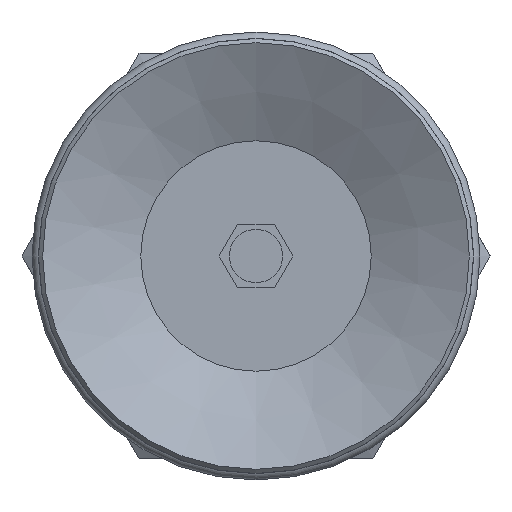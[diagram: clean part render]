
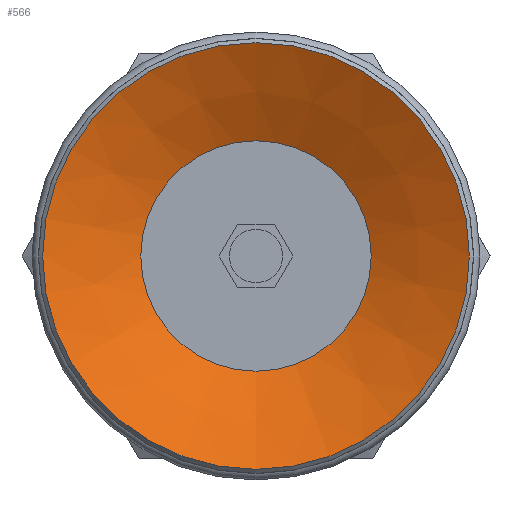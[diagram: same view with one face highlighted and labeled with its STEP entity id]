
A CAD part, front view. The second image highlights one B-rep face of the part: STEP entity #566.
In plain terms, the highlighted conical face has half-angle 63 degrees and reference radius 5.4 mm.
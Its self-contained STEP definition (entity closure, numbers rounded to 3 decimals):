
#566=ADVANCED_FACE('',(#846,#847),#848,.F.);
#846=FACE_BOUND('',#1143,.T.);
#847=FACE_OUTER_BOUND('',#1144,.T.);
#848=CONICAL_SURFACE('',#1145,5.4,1.1);
#1143=EDGE_LOOP('',(#1921));
#1144=EDGE_LOOP('',(#1922));
#1145=AXIS2_PLACEMENT_3D('',#1923,#1924,#1925);
#1921=ORIENTED_EDGE('',*,*,#2179,.F.);
#1922=ORIENTED_EDGE('',*,*,#2178,.T.);
#1923=CARTESIAN_POINT('',(0.0,5.518,0.0));
#1924=DIRECTION('',(-0.0,-1.0,0.));
#1925=DIRECTION('',(0.0,0.,-1.0));
#2178=EDGE_CURVE('',#2544,#2544,#2545,.T.);
#2179=EDGE_CURVE('',#2546,#2546,#2547,.T.);
#2544=VERTEX_POINT('',#3356);
#2545=CIRCLE('',#3357,10.0);
#2546=VERTEX_POINT('',#3358);
#2547=CIRCLE('',#3359,5.4);
#3356=CARTESIAN_POINT('',(0.0,3.175,-10.0));
#3357=AXIS2_PLACEMENT_3D('',#3700,#3701,#3702);
#3358=CARTESIAN_POINT('',(0.0,5.518,-5.4));
#3359=AXIS2_PLACEMENT_3D('',#3703,#3704,#3705);
#3700=CARTESIAN_POINT('',(0.0,3.175,0.0));
#3701=DIRECTION('',(0.0,-1.0,0.));
#3702=DIRECTION('',(0.0,0.,-1.0));
#3703=CARTESIAN_POINT('',(0.0,5.518,0.0));
#3704=DIRECTION('',(0.0,-1.0,0.));
#3705=DIRECTION('',(0.0,0.,-1.0));
